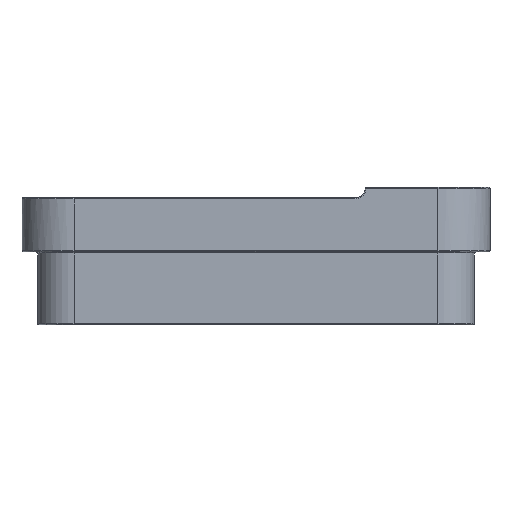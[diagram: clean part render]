
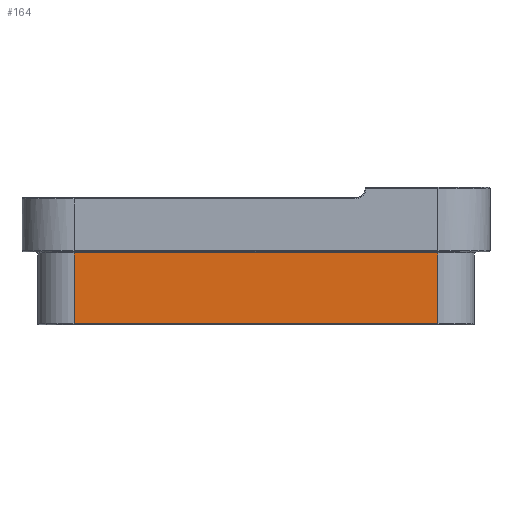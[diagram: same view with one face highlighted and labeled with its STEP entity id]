
A CAD part, front view. The second image highlights one B-rep face of the part: STEP entity #164.
In plain terms, the highlighted planar face has unit normal (0, -1, 0).
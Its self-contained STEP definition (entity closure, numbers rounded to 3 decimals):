
#164=ADVANCED_FACE('',(#444),#4013,.T.);
#444=FACE_OUTER_BOUND('',#724,.T.);
#724=EDGE_LOOP('',(#1449,#1450,#1451,#1452));
#1449=ORIENTED_EDGE('',*,*,#2451,.T.);
#1450=ORIENTED_EDGE('',*,*,#2447,.T.);
#1451=ORIENTED_EDGE('',*,*,#2452,.T.);
#1452=ORIENTED_EDGE('',*,*,#2450,.F.);
#2447=EDGE_CURVE('',#3725,#3726,#3166,.T.);
#2450=EDGE_CURVE('',#3728,#3727,#3167,.T.);
#2451=EDGE_CURVE('',#3728,#3725,#3325,.T.);
#2452=EDGE_CURVE('',#3726,#3727,#3326,.T.);
#3166=(
BOUNDED_CURVE()
B_SPLINE_CURVE(1,(#13473,#13474),.UNSPECIFIED.,.F.,.F.)
B_SPLINE_CURVE_WITH_KNOTS((2,2),(0.686,47.314),
 .UNSPECIFIED.)
CURVE()
GEOMETRIC_REPRESENTATION_ITEM()
RATIONAL_B_SPLINE_CURVE((1.,1.))
REPRESENTATION_ITEM('')
);
#3167=(
BOUNDED_CURVE()
B_SPLINE_CURVE(1,(#13481,#13482),.UNSPECIFIED.,.F.,.F.)
B_SPLINE_CURVE_WITH_KNOTS((2,2),(0.686,47.314),
 .UNSPECIFIED.)
CURVE()
GEOMETRIC_REPRESENTATION_ITEM()
RATIONAL_B_SPLINE_CURVE((1.,1.))
REPRESENTATION_ITEM('')
);
#3325=B_SPLINE_CURVE_WITH_KNOTS('',1,(#13483,#13484),.UNSPECIFIED.,.F.,
 .F.,(2,2),(0.,350.),.UNSPECIFIED.);
#3326=B_SPLINE_CURVE_WITH_KNOTS('',1,(#13485,#13486),.UNSPECIFIED.,.F.,
 .F.,(2,2),(0.,350.),.UNSPECIFIED.);
#3725=VERTEX_POINT('',#10942);
#3726=VERTEX_POINT('',#10943);
#3727=VERTEX_POINT('',#10944);
#3728=VERTEX_POINT('',#10945);
#4013=PLANE('',#4322);
#4322=AXIS2_PLACEMENT_3D('',#10067,#4634,$);
#4634=DIRECTION('',(0.,-1.,0.));
#10067=CARTESIAN_POINT('',(48154.397,1402.346,-8418.552));
#10942=CARTESIAN_POINT('',(47804.397,1402.346,-8419.552));
#10943=CARTESIAN_POINT('',(47804.397,1402.346,-8487.552));
#10944=CARTESIAN_POINT('',(48154.397,1402.346,-8487.552));
#10945=CARTESIAN_POINT('',(48154.397,1402.346,-8419.552));
#13473=CARTESIAN_POINT('',(47804.397,1402.346,-8419.552));
#13474=CARTESIAN_POINT('',(47804.397,1402.346,-8487.552));
#13481=CARTESIAN_POINT('',(48154.397,1402.346,-8419.552));
#13482=CARTESIAN_POINT('',(48154.397,1402.346,-8487.552));
#13483=CARTESIAN_POINT('',(48154.397,1402.346,-8419.552));
#13484=CARTESIAN_POINT('',(47804.397,1402.346,-8419.552));
#13485=CARTESIAN_POINT('',(47804.397,1402.346,-8487.552));
#13486=CARTESIAN_POINT('',(48154.397,1402.346,-8487.552));
